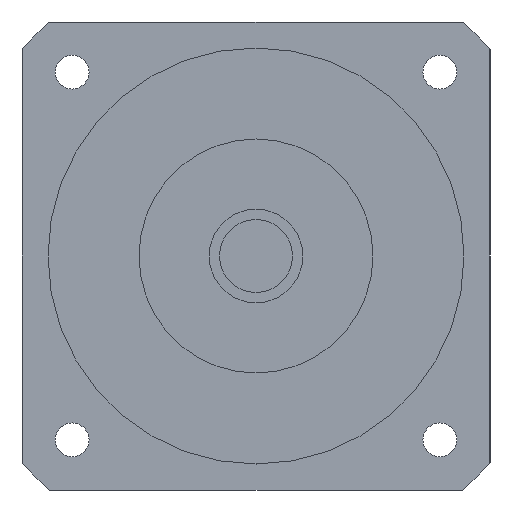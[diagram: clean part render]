
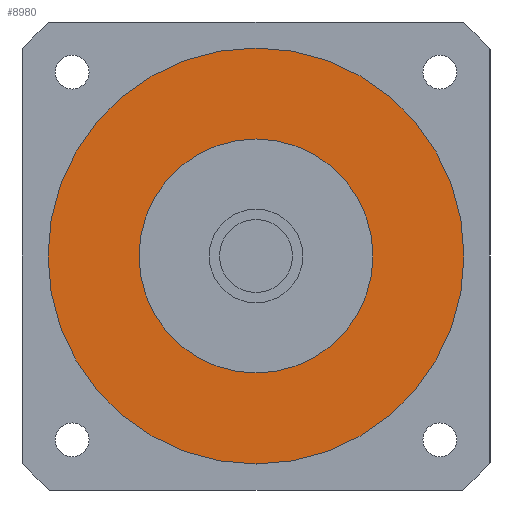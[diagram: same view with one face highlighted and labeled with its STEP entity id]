
A CAD part, left-side view. The second image highlights one B-rep face of the part: STEP entity #8980.
In plain terms, the highlighted planar face has unit normal (-1, 0, 0) as drawn and (0, 0, -1) by its records, which use the part's own axes.
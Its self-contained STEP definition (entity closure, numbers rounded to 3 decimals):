
#8590=CARTESIAN_POINT('',(0.,0.,
-54.2));
#8600=DIRECTION('',(0.,0.,1.));
#8610=DIRECTION('',(0.,1.,0.));
#8620=AXIS2_PLACEMENT_3D('',#8590,#8600,#8610);
#8630=PLANE('',#8620);
#8640=CARTESIAN_POINT('',(0.,0.,
-54.2));
#8650=DIRECTION('',(0.,0.,1.));
#8660=DIRECTION('',(0.,1.,0.));
#8670=AXIS2_PLACEMENT_3D('',#8640,#8650,#8660);
#8680=CIRCLE('',#8670,22.5);
#8690=CARTESIAN_POINT('',(0.,22.5,-54.2));
#8700=VERTEX_POINT('',#8690);
#8710=CARTESIAN_POINT('',(0.,-22.5,-54.2));
#8720=VERTEX_POINT('',#8710);
#8730=EDGE_CURVE('',#8700,#8720,#8680,.T.);
#8740=ORIENTED_EDGE('',*,*,#8730,.T.);
#8750=EDGE_CURVE('',#8720,#8700,#8680,.T.);
#8760=ORIENTED_EDGE('',*,*,#8750,.T.);
#8770=EDGE_LOOP('',(#8760,#8740));
#8780=FACE_BOUND('',#8770,.T.);
#8790=CARTESIAN_POINT('',(0.,0.,
-54.2));
#8800=DIRECTION('',(0.,0.,1.));
#8810=DIRECTION('',(1.,0.,0.));
#8820=AXIS2_PLACEMENT_3D('',#8790,#8800,#8810);
#8830=CIRCLE('',#8820,40.);
#8840=CARTESIAN_POINT('',(40.,0.,-54.2));
#8850=VERTEX_POINT('',#8840);
#8860=CARTESIAN_POINT('',(0.,40.,-54.2));
#8870=VERTEX_POINT('',#8860);
#8880=EDGE_CURVE('',#8850,#8870,#8830,.T.);
#8890=ORIENTED_EDGE('',*,*,#8880,.F.);
#8900=CARTESIAN_POINT('',(0.,-40.,-54.2));
#8910=VERTEX_POINT('',#8900);
#8920=EDGE_CURVE('',#8870,#8910,#8830,.T.);
#8930=ORIENTED_EDGE('',*,*,#8920,.F.);
#8940=EDGE_CURVE('',#8910,#8850,#8830,.T.);
#8950=ORIENTED_EDGE('',*,*,#8940,.F.);
#8960=EDGE_LOOP('',(#8950,#8930,#8890));
#8970=FACE_OUTER_BOUND('',#8960,.T.);
#8980=ADVANCED_FACE('',(#8780,#8970),#8630,.F.);
